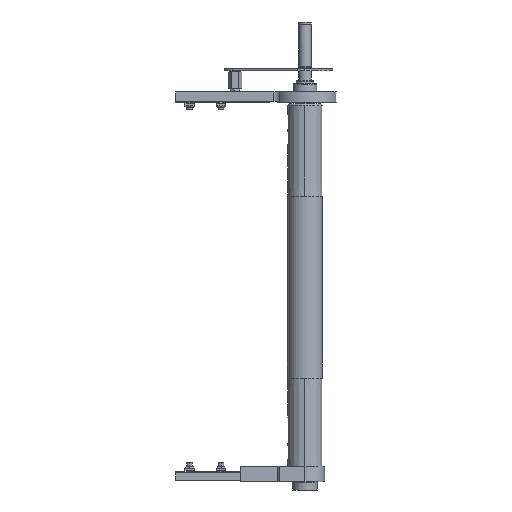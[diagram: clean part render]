
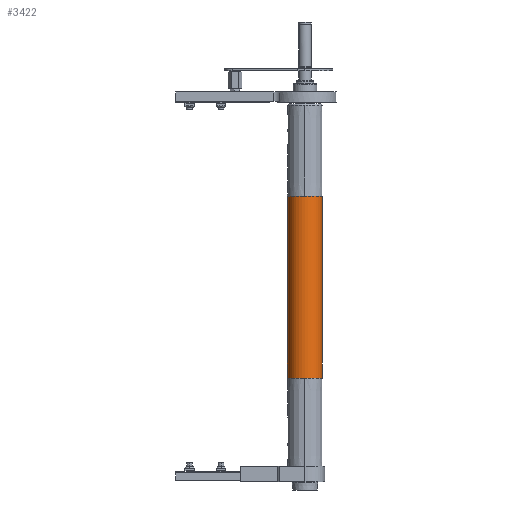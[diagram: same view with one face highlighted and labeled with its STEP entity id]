
A CAD part, front view. The second image highlights one B-rep face of the part: STEP entity #3422.
In plain terms, the highlighted cylindrical face has radius 25 mm (diameter 50 mm), a partial arc.
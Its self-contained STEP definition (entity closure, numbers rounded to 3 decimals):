
#190 = DIRECTION ( 'NONE',  ( -1., 0., 0. ) ) ;
#1169 = ORIENTED_EDGE ( 'NONE', *, *, #7488, .F. ) ;
#2570 = CIRCLE ( 'NONE', #12282, 25. ) ;
#2904 = VERTEX_POINT ( 'NONE', #5371 ) ;
#3018 = CIRCLE ( 'NONE', #5071, 25. ) ;
#3031 = ORIENTED_EDGE ( 'NONE', *, *, #6097, .T. ) ;
#3422 = ADVANCED_FACE ( 'NONE', ( #12634 ), #3979, .T. ) ;
#3603 = CARTESIAN_POINT ( 'NONE',  ( 260., 0., 0. ) ) ;
#3942 = VERTEX_POINT ( 'NONE', #7957 ) ;
#3979 = CYLINDRICAL_SURFACE ( 'NONE', #11285, 25. ) ;
#4725 = AXIS2_PLACEMENT_3D ( 'NONE', #13447, #190, #18838 ) ;
#5071 = AXIS2_PLACEMENT_3D ( 'NONE', #15220, #8194, #12415 ) ;
#5371 = CARTESIAN_POINT ( 'NONE',  ( 130., 0., 25. ) ) ;
#5590 = CARTESIAN_POINT ( 'NONE',  ( 260., 0., -25. ) ) ;
#5919 = CARTESIAN_POINT ( 'NONE',  ( 260., 0., 25. ) ) ;
#6089 = CARTESIAN_POINT ( 'NONE',  ( -130., 0., -25. ) ) ;
#6097 = EDGE_CURVE ( 'NONE', #12805, #8836, #16513, .T. ) ;
#7377 = DIRECTION ( 'NONE',  ( -1., 0., 0. ) ) ;
#7488 = EDGE_CURVE ( 'NONE', #2904, #3942, #7825, .T. ) ;
#7513 = EDGE_CURVE ( 'NONE', #3942, #17077, #11717, .T. ) ;
#7515 = DIRECTION ( 'NONE',  ( 0., -1., 0. ) ) ;
#7589 = CIRCLE ( 'NONE', #7862, 25. ) ;
#7726 = DIRECTION ( 'NONE',  ( 0., 0., 1. ) ) ;
#7825 = LINE ( 'NONE', #5919, #12172 ) ;
#7862 = AXIS2_PLACEMENT_3D ( 'NONE', #9093, #16269, #7515 ) ;
#7867 = VERTEX_POINT ( 'NONE', #15306 ) ;
#7957 = CARTESIAN_POINT ( 'NONE',  ( -130., 0., 25. ) ) ;
#8194 = DIRECTION ( 'NONE',  ( -1., 0., 0. ) ) ;
#8836 = VERTEX_POINT ( 'NONE', #6089 ) ;
#9093 = CARTESIAN_POINT ( 'NONE',  ( 130., 0., 0. ) ) ;
#9462 = ORIENTED_EDGE ( 'NONE', *, *, #11094, .T. ) ;
#9622 = CARTESIAN_POINT ( 'NONE',  ( 130., 0., 0. ) ) ;
#9690 = DIRECTION ( 'NONE',  ( -1., 0., 0. ) ) ;
#9698 = ORIENTED_EDGE ( 'NONE', *, *, #7513, .F. ) ;
#11082 = CARTESIAN_POINT ( 'NONE',  ( -130., 25., 0. ) ) ;
#11094 = EDGE_CURVE ( 'NONE', #2904, #7867, #7589, .T. ) ;
#11285 = AXIS2_PLACEMENT_3D ( 'NONE', #3603, #17977, #7726 ) ;
#11717 = CIRCLE ( 'NONE', #4725, 25. ) ;
#12172 = VECTOR ( 'NONE', #7377, 1000. ) ;
#12282 = AXIS2_PLACEMENT_3D ( 'NONE', #9622, #9690, #16749 ) ;
#12415 = DIRECTION ( 'NONE',  ( 0., -1., 0. ) ) ;
#12506 = EDGE_CURVE ( 'NONE', #17077, #8836, #3018, .T. ) ;
#12527 = EDGE_CURVE ( 'NONE', #7867, #12805, #2570, .T. ) ;
#12634 = FACE_OUTER_BOUND ( 'NONE', #12904, .T. ) ;
#12769 = ORIENTED_EDGE ( 'NONE', *, *, #12506, .F. ) ;
#12805 = VERTEX_POINT ( 'NONE', #16294 ) ;
#12904 = EDGE_LOOP ( 'NONE', ( #9462, #15297, #3031, #12769, #9698, #1169 ) ) ;
#13447 = CARTESIAN_POINT ( 'NONE',  ( -130., 0., 0. ) ) ;
#15220 = CARTESIAN_POINT ( 'NONE',  ( -130., 0., 0. ) ) ;
#15297 = ORIENTED_EDGE ( 'NONE', *, *, #12527, .T. ) ;
#15306 = CARTESIAN_POINT ( 'NONE',  ( 130., 25., 0. ) ) ;
#15790 = DIRECTION ( 'NONE',  ( -1., 0., 0. ) ) ;
#16269 = DIRECTION ( 'NONE',  ( -1., 0., 0. ) ) ;
#16294 = CARTESIAN_POINT ( 'NONE',  ( 130., 0., -25. ) ) ;
#16513 = LINE ( 'NONE', #5590, #18336 ) ;
#16749 = DIRECTION ( 'NONE',  ( 0., -1., 0. ) ) ;
#17077 = VERTEX_POINT ( 'NONE', #11082 ) ;
#17977 = DIRECTION ( 'NONE',  ( -1., 0., 0. ) ) ;
#18336 = VECTOR ( 'NONE', #15790, 1000. ) ;
#18838 = DIRECTION ( 'NONE',  ( 0., -1., 0. ) ) ;
